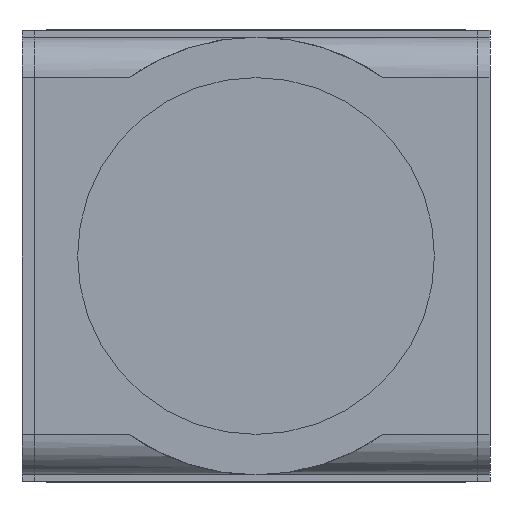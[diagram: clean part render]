
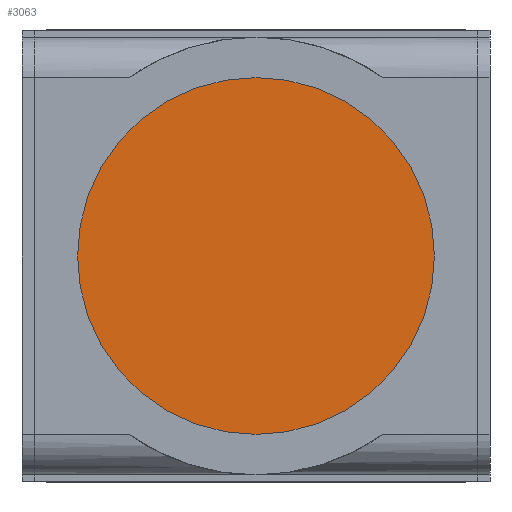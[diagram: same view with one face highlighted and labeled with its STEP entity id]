
A CAD part, front view. The second image highlights one B-rep face of the part: STEP entity #3063.
In plain terms, the highlighted planar face has unit normal (0, -1, 0).
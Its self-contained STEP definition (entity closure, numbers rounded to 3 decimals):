
#1038=CARTESIAN_POINT('',(0.,-35.5,0.));
#1039=DIRECTION('',(0.,-1.,0.));
#1040=DIRECTION('',(1.,0.,0.));
#1041=AXIS2_PLACEMENT_3D('',#1038,#1039,#1040);
#1043=CARTESIAN_POINT('',(0.,-35.5,0.));
#1044=DIRECTION('',(0.,-1.,0.));
#1045=DIRECTION('',(-1.,0.,0.));
#1046=AXIS2_PLACEMENT_3D('',#1043,#1044,#1045);
#1622=CARTESIAN_POINT('',(26.5,-35.5,0.));
#1623=CARTESIAN_POINT('',(-26.5,-35.5,0.));
#1624=VERTEX_POINT('',#1622);
#1625=VERTEX_POINT('',#1623);
#3054=CARTESIAN_POINT('',(-32.95,-35.5,0.));
#3055=DIRECTION('',(0.,-1.,0.));
#3056=DIRECTION('',(1.,0.,0.));
#3057=AXIS2_PLACEMENT_3D('',#3054,#3055,#3056);
#3058=PLANE('',#3057);
#3059=ORIENTED_EDGE('',*,*,#3034,.F.);
#3060=ORIENTED_EDGE('',*,*,#3048,.F.);
#3061=EDGE_LOOP('',(#3059,#3060));
#3062=FACE_OUTER_BOUND('',#3061,.F.);
#3063=ADVANCED_FACE('',(#3062),#3058,.T.);
#1042=CIRCLE('',#1041,26.5);
#1047=CIRCLE('',#1046,26.5);
#3034=EDGE_CURVE('',#1624,#1625,#1042,.T.);
#3048=EDGE_CURVE('',#1625,#1624,#1047,.T.);
